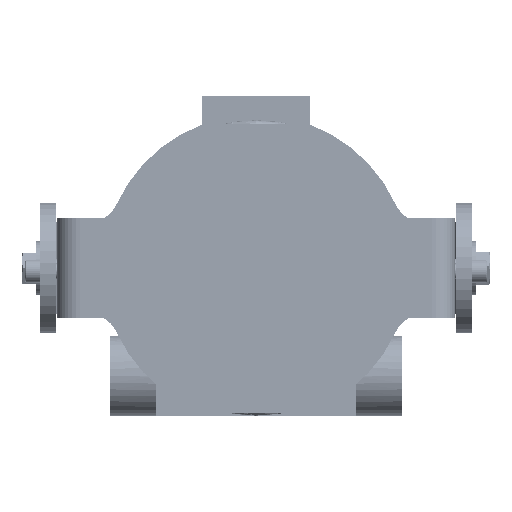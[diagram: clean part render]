
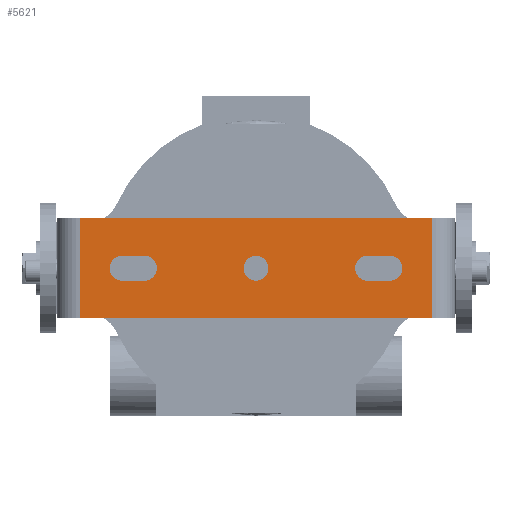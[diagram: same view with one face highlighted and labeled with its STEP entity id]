
A CAD part, front view. The second image highlights one B-rep face of the part: STEP entity #5621.
In plain terms, the highlighted planar face has unit normal (0, -1, 0) as drawn and (0, 0, -1) by its records, which use the part's own axes.
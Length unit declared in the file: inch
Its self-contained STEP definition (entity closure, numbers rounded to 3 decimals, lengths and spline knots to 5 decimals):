
#614 = CARTESIAN_POINT ( 'NONE',  ( -2.18176, 0.2031, -0.25 ) ) ;
#645 = VERTEX_POINT ( 'NONE', #10025 ) ;
#863 = CIRCLE ( 'NONE', #21799, 0.2031 ) ;
#945 = CARTESIAN_POINT ( 'NONE',  ( 2.87204, 0.8125, -0.25 ) ) ;
#1029 = CARTESIAN_POINT ( 'NONE',  ( 2.87204, -0.8125, -0.25 ) ) ;
#1065 = ORIENTED_EDGE ( 'NONE', *, *, #7363, .T. ) ;
#1179 = AXIS2_PLACEMENT_3D ( 'NONE', #14000, #6558, #20341 ) ;
#1598 = VERTEX_POINT ( 'NONE', #28814 ) ;
#1599 = VECTOR ( 'NONE', #25419, 39.37008 ) ;
#1773 = VERTEX_POINT ( 'NONE', #8199 ) ;
#1846 = DIRECTION ( 'NONE',  ( 0., 1., 0. ) ) ;
#2074 = CARTESIAN_POINT ( 'NONE',  ( 2.87204, 0., -0.25 ) ) ;
#2508 = CARTESIAN_POINT ( 'NONE',  ( 4.94339, 0., -0.25 ) ) ;
#2685 = DIRECTION ( 'NONE',  ( 1., 0., 0. ) ) ;
#2895 = CARTESIAN_POINT ( 'NONE',  ( 2.18176, 0.2031, -0.25 ) ) ;
#2904 = LINE ( 'NONE', #30460, #8462 ) ;
#3491 = CARTESIAN_POINT ( 'NONE',  ( -2.87204, -0.8125, -0.25 ) ) ;
#3503 = ORIENTED_EDGE ( 'NONE', *, *, #26040, .F. ) ;
#3770 = ORIENTED_EDGE ( 'NONE', *, *, #24586, .T. ) ;
#3882 = EDGE_CURVE ( 'NONE', #4098, #21648, #34476, .T. ) ;
#4013 = ORIENTED_EDGE ( 'NONE', *, *, #3882, .T. ) ;
#4098 = VERTEX_POINT ( 'NONE', #9193 ) ;
#4629 = DIRECTION ( 'NONE',  ( 0., 1., 0. ) ) ;
#4809 = EDGE_LOOP ( 'NONE', ( #43793, #4013, #19752, #28827, #12687 ) ) ;
#5475 = VERTEX_POINT ( 'NONE', #38764 ) ;
#5603 = LINE ( 'NONE', #2895, #23116 ) ;
#5621 = ADVANCED_FACE ( 'NONE', ( #12100, #19899, #37688, #41083 ), #40641, .T. ) ;
#5818 = EDGE_CURVE ( 'NONE', #7225, #21601, #863, .T. ) ;
#6269 = DIRECTION ( 'NONE',  ( -1., 0., 0. ) ) ;
#6440 = CARTESIAN_POINT ( 'NONE',  ( 0., 0., -0.25 ) ) ;
#6511 = ORIENTED_EDGE ( 'NONE', *, *, #5818, .T. ) ;
#6558 = DIRECTION ( 'NONE',  ( 0., 0., 1. ) ) ;
#6958 = DIRECTION ( 'NONE',  ( 1., 0., 0. ) ) ;
#7225 = VERTEX_POINT ( 'NONE', #22795 ) ;
#7363 = EDGE_CURVE ( 'NONE', #21601, #1773, #2904, .T. ) ;
#7442 = DIRECTION ( 'NONE',  ( 1., 0., 0. ) ) ;
#7840 = ORIENTED_EDGE ( 'NONE', *, *, #12915, .F. ) ;
#8199 = CARTESIAN_POINT ( 'NONE',  ( 2.18176, -0.2031, -0.25 ) ) ;
#8462 = VECTOR ( 'NONE', #6958, 39.37008 ) ;
#8485 = VERTEX_POINT ( 'NONE', #42869 ) ;
#8631 = VERTEX_POINT ( 'NONE', #28626 ) ;
#9126 = ORIENTED_EDGE ( 'NONE', *, *, #43123, .T. ) ;
#9193 = CARTESIAN_POINT ( 'NONE',  ( -2.18176, 0.2031, -0.25 ) ) ;
#9657 = EDGE_CURVE ( 'NONE', #21648, #8485, #22659, .T. ) ;
#10025 = CARTESIAN_POINT ( 'NONE',  ( -2.87204, 0.8125, -0.25 ) ) ;
#10828 = CARTESIAN_POINT ( 'NONE',  ( -1.81824, 0., -0.25 ) ) ;
#10973 = DIRECTION ( 'NONE',  ( -1., 0., 0. ) ) ;
#11860 = LINE ( 'NONE', #614, #30056 ) ;
#12100 = FACE_BOUND ( 'NONE', #23665, .T. ) ;
#12687 = ORIENTED_EDGE ( 'NONE', *, *, #16106, .T. ) ;
#12915 = EDGE_CURVE ( 'NONE', #26369, #41035, #33614, .T. ) ;
#13461 = EDGE_LOOP ( 'NONE', ( #15700, #3770 ) ) ;
#13952 = DIRECTION ( 'NONE',  ( 1., 0., 0. ) ) ;
#14000 = CARTESIAN_POINT ( 'NONE',  ( 0., 0., -0.25 ) ) ;
#14992 = VERTEX_POINT ( 'NONE', #44586 ) ;
#15147 = ORIENTED_EDGE ( 'NONE', *, *, #33847, .T. ) ;
#15700 = ORIENTED_EDGE ( 'NONE', *, *, #32747, .T. ) ;
#15777 = VERTEX_POINT ( 'NONE', #18588 ) ;
#15799 = DIRECTION ( 'NONE',  ( 0., 0., 1. ) ) ;
#16106 = EDGE_CURVE ( 'NONE', #8631, #15777, #30977, .T. ) ;
#16461 = AXIS2_PLACEMENT_3D ( 'NONE', #42184, #21687, #18284 ) ;
#16528 = EDGE_CURVE ( 'NONE', #8485, #8631, #16671, .T. ) ;
#16671 = CIRCLE ( 'NONE', #41879, 0.2031 ) ;
#18284 = DIRECTION ( 'NONE',  ( 1., 0., 0. ) ) ;
#18340 = DIRECTION ( 'NONE',  ( -1., 0., 0. ) ) ;
#18588 = CARTESIAN_POINT ( 'NONE',  ( -1.81824, 0.2031, -0.25 ) ) ;
#19211 = CIRCLE ( 'NONE', #1179, 0.2031 ) ;
#19752 = ORIENTED_EDGE ( 'NONE', *, *, #9657, .T. ) ;
#19899 = FACE_BOUND ( 'NONE', #13461, .T. ) ;
#20341 = DIRECTION ( 'NONE',  ( 1., 0., 0. ) ) ;
#21601 = VERTEX_POINT ( 'NONE', #22586 ) ;
#21648 = VERTEX_POINT ( 'NONE', #33183 ) ;
#21687 = DIRECTION ( 'NONE',  ( 0., 0., 1. ) ) ;
#21799 = AXIS2_PLACEMENT_3D ( 'NONE', #41521, #25092, #24863 ) ;
#22586 = CARTESIAN_POINT ( 'NONE',  ( 1.81824, -0.2031, -0.25 ) ) ;
#22659 = LINE ( 'NONE', #32610, #1599 ) ;
#22795 = CARTESIAN_POINT ( 'NONE',  ( 1.81824, 0.2031, -0.25 ) ) ;
#22974 = CIRCLE ( 'NONE', #44579, 0.2031 ) ;
#23116 = VECTOR ( 'NONE', #40587, 39.37008 ) ;
#23250 = DIRECTION ( 'NONE',  ( -1., 0., 0. ) ) ;
#23665 = EDGE_LOOP ( 'NONE', ( #29910, #42896, #9126, #6511, #1065 ) ) ;
#23868 = VECTOR ( 'NONE', #1846, 39.37008 ) ;
#24189 = EDGE_CURVE ( 'NONE', #43837, #14992, #22974, .T. ) ;
#24586 = EDGE_CURVE ( 'NONE', #5475, #1598, #40166, .T. ) ;
#24863 = DIRECTION ( 'NONE',  ( -1., 0., 0. ) ) ;
#24867 = DIRECTION ( 'NONE',  ( 0., 0., 1. ) ) ;
#25092 = DIRECTION ( 'NONE',  ( 0., 0., 1. ) ) ;
#25419 = DIRECTION ( 'NONE',  ( 1., 0., 0. ) ) ;
#26040 = EDGE_CURVE ( 'NONE', #34629, #645, #42849, .T. ) ;
#26312 = CARTESIAN_POINT ( 'NONE',  ( -2.87204, 0., -0.25 ) ) ;
#26348 = DIRECTION ( 'NONE',  ( 1., 0., 0. ) ) ;
#26369 = VERTEX_POINT ( 'NONE', #3491 ) ;
#27290 = CARTESIAN_POINT ( 'NONE',  ( 4.26593, 0.8125, -0.25 ) ) ;
#27775 = VECTOR ( 'NONE', #2685, 39.37008 ) ;
#28233 = AXIS2_PLACEMENT_3D ( 'NONE', #2508, #37469, #33656 ) ;
#28303 = VECTOR ( 'NONE', #6269, 39.37008 ) ;
#28626 = CARTESIAN_POINT ( 'NONE',  ( -1.61514, 0., -0.25 ) ) ;
#28814 = CARTESIAN_POINT ( 'NONE',  ( 0.2031, 0., -0.25 ) ) ;
#28827 = ORIENTED_EDGE ( 'NONE', *, *, #16528, .T. ) ;
#29676 = LINE ( 'NONE', #26312, #34266 ) ;
#29717 = DIRECTION ( 'NONE',  ( 0., 0., 1. ) ) ;
#29910 = ORIENTED_EDGE ( 'NONE', *, *, #39072, .T. ) ;
#30008 = CARTESIAN_POINT ( 'NONE',  ( -1.81824, 0., -0.25 ) ) ;
#30056 = VECTOR ( 'NONE', #10973, 39.37008 ) ;
#30460 = CARTESIAN_POINT ( 'NONE',  ( 1.81824, -0.2031, -0.25 ) ) ;
#30977 = CIRCLE ( 'NONE', #35278, 0.2031 ) ;
#30993 = EDGE_LOOP ( 'NONE', ( #7840, #15147, #3503, #33879 ) ) ;
#32610 = CARTESIAN_POINT ( 'NONE',  ( -1.81824, -0.2031, -0.25 ) ) ;
#32747 = EDGE_CURVE ( 'NONE', #1598, #5475, #19211, .T. ) ;
#33183 = CARTESIAN_POINT ( 'NONE',  ( -2.18176, -0.2031, -0.25 ) ) ;
#33614 = LINE ( 'NONE', #40150, #27775 ) ;
#33656 = DIRECTION ( 'NONE',  ( -1., 0., 0. ) ) ;
#33847 = EDGE_CURVE ( 'NONE', #26369, #645, #29676, .T. ) ;
#33879 = ORIENTED_EDGE ( 'NONE', *, *, #43740, .F. ) ;
#34266 = VECTOR ( 'NONE', #4629, 39.37008 ) ;
#34476 = CIRCLE ( 'NONE', #16461, 0.2031 ) ;
#34629 = VERTEX_POINT ( 'NONE', #945 ) ;
#35278 = AXIS2_PLACEMENT_3D ( 'NONE', #10828, #24867, #7442 ) ;
#35529 = EDGE_CURVE ( 'NONE', #15777, #4098, #11860, .T. ) ;
#35820 = CIRCLE ( 'NONE', #37272, 0.2031 ) ;
#36548 = CARTESIAN_POINT ( 'NONE',  ( 2.18176, 0., -0.25 ) ) ;
#37272 = AXIS2_PLACEMENT_3D ( 'NONE', #36548, #15799, #23250 ) ;
#37469 = DIRECTION ( 'NONE',  ( 0., 0., -1. ) ) ;
#37688 = FACE_BOUND ( 'NONE', #4809, .T. ) ;
#37867 = DIRECTION ( 'NONE',  ( 0., 0., 1. ) ) ;
#38764 = CARTESIAN_POINT ( 'NONE',  ( -0.2031, 0., -0.25 ) ) ;
#38863 = CARTESIAN_POINT ( 'NONE',  ( 2.18176, 0., -0.25 ) ) ;
#39072 = EDGE_CURVE ( 'NONE', #1773, #43837, #35820, .T. ) ;
#39427 = AXIS2_PLACEMENT_3D ( 'NONE', #6440, #29717, #26348 ) ;
#39537 = CARTESIAN_POINT ( 'NONE',  ( 2.38486, 0., -0.25 ) ) ;
#40150 = CARTESIAN_POINT ( 'NONE',  ( -4.26593, -0.8125, -0.25 ) ) ;
#40166 = CIRCLE ( 'NONE', #39427, 0.2031 ) ;
#40587 = DIRECTION ( 'NONE',  ( -1., 0., 0. ) ) ;
#40641 = PLANE ( 'NONE',  #28233 ) ;
#41035 = VERTEX_POINT ( 'NONE', #1029 ) ;
#41083 = FACE_OUTER_BOUND ( 'NONE', #30993, .T. ) ;
#41521 = CARTESIAN_POINT ( 'NONE',  ( 1.81824, 0., -0.25 ) ) ;
#41879 = AXIS2_PLACEMENT_3D ( 'NONE', #30008, #37867, #13952 ) ;
#42184 = CARTESIAN_POINT ( 'NONE',  ( -2.18176, 0., -0.25 ) ) ;
#42461 = DIRECTION ( 'NONE',  ( 0., 0., 1. ) ) ;
#42480 = LINE ( 'NONE', #2074, #23868 ) ;
#42849 = LINE ( 'NONE', #27290, #28303 ) ;
#42869 = CARTESIAN_POINT ( 'NONE',  ( -1.81824, -0.2031, -0.25 ) ) ;
#42896 = ORIENTED_EDGE ( 'NONE', *, *, #24189, .T. ) ;
#43123 = EDGE_CURVE ( 'NONE', #14992, #7225, #5603, .T. ) ;
#43740 = EDGE_CURVE ( 'NONE', #41035, #34629, #42480, .T. ) ;
#43793 = ORIENTED_EDGE ( 'NONE', *, *, #35529, .T. ) ;
#43837 = VERTEX_POINT ( 'NONE', #39537 ) ;
#44579 = AXIS2_PLACEMENT_3D ( 'NONE', #38863, #42461, #18340 ) ;
#44586 = CARTESIAN_POINT ( 'NONE',  ( 2.18176, 0.2031, -0.25 ) ) ;
